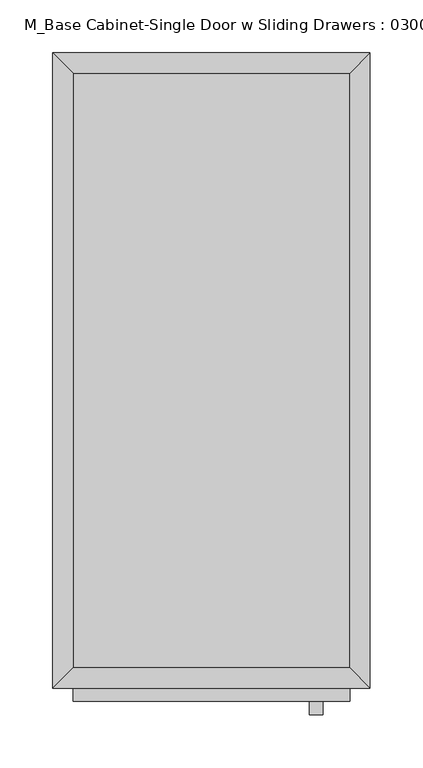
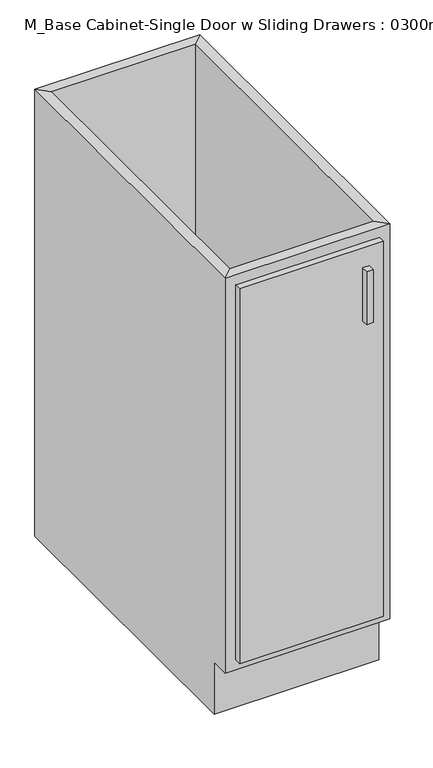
"""IFC4 building model written with IfcOpenShell, lengths in millimetres: furniture geometry, M_Base Cabinet-Single Door w Sliding Drawers : 0300mm."""

from ifc_helpers import new_model, si_unit, frame, origin, place, context, project, spatial, polyline, outline, extrude, faceted_brep, source, transform, mapped, element, save


def m_base_cabinet_single_door_w_sliding_drawers_0300mm_e5213fac(model_context):
    return source(origin(), model_context, "Body", "SolidModel", [
        faceted_brep([(149.6877049, -580.95, 860.0), (149.6877049, -580.95, 100.0), (-112.2122951, -580.95, 100.0), (-112.2122951, -580.95, 860.0), (-131.2622951, -600.0, 860.0), (168.7377049, -600.0, 860.0), (-131.2622951, -600.0, 100.0), (168.7377049, -600.0, 100.0), (-112.2122951, -565.0, 100.0), (-112.2122951, -19.05, 100.0), (-112.2122951, -19.05, 860.0), (-131.2622951, 0.0, 860.0), (-131.2622951, 0.0, 0.0), (-131.2622951, -565.0, 0.0), (-131.2622951, -565.0, 100.0), (149.6877049, -19.05, 100.0), (149.6877049, -19.05, 860.0), (168.7377049, 0.0, 860.0), (168.7377049, 0.0, 0.0), (149.6877049, -565.0, 100.0), (168.7377049, -565.0, 100.0), (168.7377049, -565.0, 0.0)], [[[0, 1, 2, 3]], [[0, 3, 4, 5]], [[5, 4, 6, 7]], [[2, 1, 7, 6]], [[3, 2, 8, 9, 10]], [[4, 3, 10, 11]], [[6, 4, 11, 12, 13, 14]], [[2, 6, 14, 8]], [[10, 9, 15, 16]], [[11, 10, 16, 17]], [[12, 11, 17, 18]], [[1, 0, 16, 15, 19]], [[0, 5, 17, 16]], [[5, 7, 20, 21, 18, 17]], [[7, 1, 19, 20]], [[8, 19, 15, 9]], [[18, 21, 13, 12]], [[13, 21, 20, 19, 8, 14]]]),
        extrude(outline(polyline([(124.2877049, -625.4), (111.5877049, -625.4), (111.5877049, -612.7), (124.2877049, -612.7), (124.2877049, -625.4)])), frame((0.0, 0.0, 701.25), z_axis=(0.0, 0.0, 1.0), x_axis=(1.0, 0.0, 0.0)), (0.0, 0.0, 1.0), 101.6),
        extrude(outline(polyline([(149.6877049, -612.7), (-112.2122951, -612.7), (-112.2122951, -600.0), (149.6877049, -600.0), (149.6877049, -612.7)])), frame((0.0, 0.0, 119.05), z_axis=(0.0, 0.0, 1.0), x_axis=(1.0, 0.0, 0.0)), (0.0, 0.0, 1.0), 721.9),
        extrude(outline(polyline([(149.6877049, -19.05), (149.6877049, -580.95), (-112.2122951, -580.95), (-112.2122951, -19.05), (149.6877049, -19.05)])), frame((0.0, 0.0, 100.0), z_axis=(0.0, 0.0, 1.0), x_axis=(1.0, 0.0, 0.0)), (0.0, 0.0, 1.0), 19.05),
    ])


if __name__ == "__main__":
    model = new_model("IFC4")
    model_context = context("Model", 3, world=origin())
    ifc_project = project(units=[si_unit("LENGTHUNIT", "METRE", prefix="MILLI")], contexts=[model_context])
    site = spatial("IfcSite", under=ifc_project)
    building = spatial("IfcBuilding", under=site)
    placement = place(None, origin())
    m_base_cabinet_single_door_w_sliding_drawers_0300mm_shape = m_base_cabinet_single_door_w_sliding_drawers_0300mm_e5213fac(model_context)
    element("IfcFurniture", 1, ObjectType="M_Base Cabinet-Single Door w Sliding Drawers : 0300mm", at=placement, inside=building, context=model_context, shape_type="MappedRepresentation", body=[
        mapped(m_base_cabinet_single_door_w_sliding_drawers_0300mm_shape, transform((0.0, 0.0, 0.0), x_axis=(1.0, 0.0, 0.0), y_axis=(0.0, 1.0, 0.0), z_axis=(0.0, 0.0, 1.0))),
    ])
    save(model, "model.ifc")
